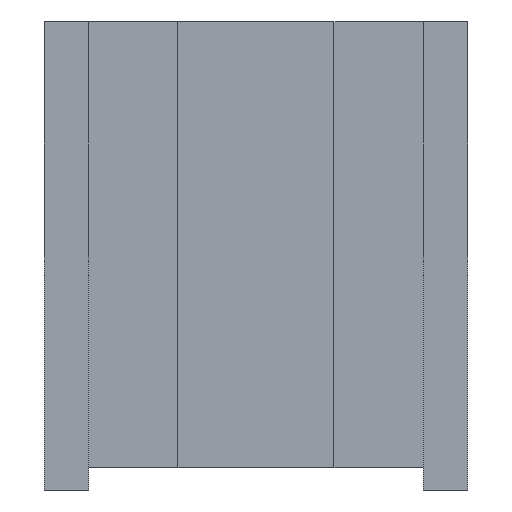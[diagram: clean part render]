
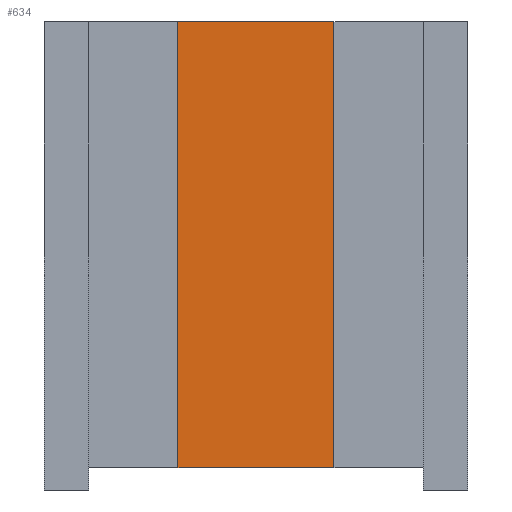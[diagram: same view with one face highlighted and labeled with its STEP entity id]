
A CAD part, left-side view. The second image highlights one B-rep face of the part: STEP entity #634.
In plain terms, the highlighted planar face has unit normal (-1, 0, 0).
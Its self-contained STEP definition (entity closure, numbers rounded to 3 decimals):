
#21 = EDGE_CURVE ( 'NONE', #323, #863, #481, .T. ) ;
#76 = LINE ( 'NONE', #458, #647 ) ;
#81 = EDGE_CURVE ( 'NONE', #668, #757, #76, .T. ) ;
#115 = ORIENTED_EDGE ( 'NONE', *, *, #273, .T. ) ;
#117 = VECTOR ( 'NONE', #450, 1000. ) ;
#149 = CARTESIAN_POINT ( 'NONE',  ( -55.5, 3.5, -9.5 ) ) ;
#150 = CARTESIAN_POINT ( 'NONE',  ( -55.5, -3.5, -9.5 ) ) ;
#177 = FACE_OUTER_BOUND ( 'NONE', #276, .T. ) ;
#178 = CARTESIAN_POINT ( 'NONE',  ( -55.5, 3.5, 10.5 ) ) ;
#220 = VECTOR ( 'NONE', #769, 1000. ) ;
#243 = CARTESIAN_POINT ( 'NONE',  ( -55.5, -3.5, 10.5 ) ) ;
#273 = EDGE_CURVE ( 'NONE', #863, #757, #613, .T. ) ;
#276 = EDGE_LOOP ( 'NONE', ( #573, #642, #678, #115 ) ) ;
#304 = DIRECTION ( 'NONE',  ( -1., 0., 0. ) ) ;
#323 = VERTEX_POINT ( 'NONE', #149 ) ;
#356 = CARTESIAN_POINT ( 'NONE',  ( -55.5, 3.5, -10.5 ) ) ;
#378 = CARTESIAN_POINT ( 'NONE',  ( -55.5, 1.75, -9.5 ) ) ;
#388 = DIRECTION ( 'NONE',  ( 0., -1., 0. ) ) ;
#450 = DIRECTION ( 'NONE',  ( 0., -1., 0. ) ) ;
#458 = CARTESIAN_POINT ( 'NONE',  ( -55.5, 1.75, 10.5 ) ) ;
#481 = LINE ( 'NONE', #378, #117 ) ;
#487 = AXIS2_PLACEMENT_3D ( 'NONE', #723, #304, #795 ) ;
#573 = ORIENTED_EDGE ( 'NONE', *, *, #81, .F. ) ;
#613 = LINE ( 'NONE', #694, #220 ) ;
#634 = ADVANCED_FACE ( 'NONE', ( #177 ), #864, .T. ) ;
#642 = ORIENTED_EDGE ( 'NONE', *, *, #833, .F. ) ;
#647 = VECTOR ( 'NONE', #388, 1000. ) ;
#668 = VERTEX_POINT ( 'NONE', #178 ) ;
#678 = ORIENTED_EDGE ( 'NONE', *, *, #21, .T. ) ;
#693 = LINE ( 'NONE', #356, #905 ) ;
#694 = CARTESIAN_POINT ( 'NONE',  ( -55.5, -3.5, -10.5 ) ) ;
#723 = CARTESIAN_POINT ( 'NONE',  ( -55.5, 1.75, -11.5 ) ) ;
#757 = VERTEX_POINT ( 'NONE', #243 ) ;
#769 = DIRECTION ( 'NONE',  ( 0., 0., 1. ) ) ;
#795 = DIRECTION ( 'NONE',  ( 0., 0., 1. ) ) ;
#833 = EDGE_CURVE ( 'NONE', #323, #668, #693, .T. ) ;
#845 = DIRECTION ( 'NONE',  ( 0., 0., 1. ) ) ;
#863 = VERTEX_POINT ( 'NONE', #150 ) ;
#864 = PLANE ( 'NONE',  #487 ) ;
#905 = VECTOR ( 'NONE', #845, 1000. ) ;
